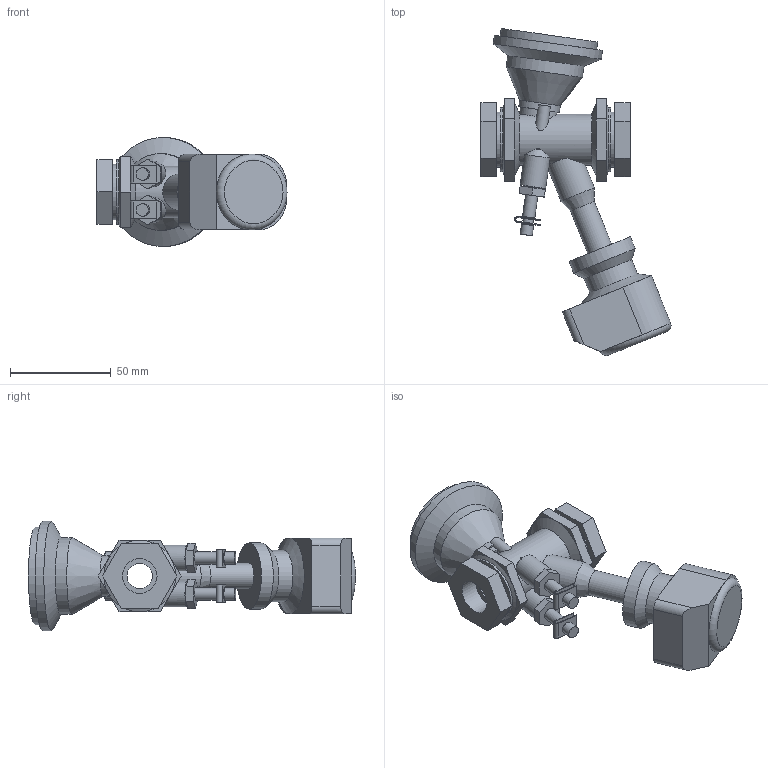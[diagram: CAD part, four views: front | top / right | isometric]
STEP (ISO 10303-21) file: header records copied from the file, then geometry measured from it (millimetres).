
FILE_DESCRIPTION(/* description */ ('VIC BALANCING AND CONTROL VALVE SERIES 7CP (FPT)-EMO 3','CAx-IF Rec.Pracs.---Representation and Presentation of Product Manufacturing Information (PMI)---4.0---2014-10-13'),/* implementation_level */ '2;1');
FILE_NAME(/* name */ 'C:\Users\Vjadhav\AppData\Roaming\Autodesk\ApplicationPlugins\Victaulic.Temp\A633\Victaulic_IPS_Valve Balancing Pressure Independent_TA Series 7CP (FPT)_EMO 3_0.375 (10).stp',/* time_stamp */ '2021-09-14T20:02:04+06:00',/* author */ ('Vjadhav'),/* organization */ ('Victaulic'),/* preprocessor_version */ 'ST-DEVELOPER v17.2',/* originating_system */ 'Autodesk Inventor 2019',/* authorisation */ '');
FILE_SCHEMA (('AP242_MANAGED_MODEL_BASED_3D_ENGINEERING_MIM_LF { 1 0 10303 442 1 1 4 }'));
Length unit declared in the file: inch
Products named in the file (2): 7CP_EMO 3-0.375; 7CP-0.375
Assembly tree (1 placements, depth 2):
  7CP_EMO 3-0.375
    7CP-0.375
Bounding box: 94.19 x 162.05 x 54.1 mm (x, y, z)
Volume: 151963.7 mm3; surface area: 37415.7 mm2
Topology: 1 solids, 1 shells, 179 faces, 447 edges, 296 vertices
Faces by surface type: plane 120, cylinder 47, cone 11, torus 1
Full cylindrical faces by diameter (mm): 5.08 x6, 6.096 x6, 12.522 x2, 12.649 x1, 12.7 x2, 17.145 x3, 17.78 x1, 20.32 x1, 25.4 x2, 27.432 x2, 31.75 x2, 32.766 x1, 37.631 x1, 38.1 x1, 48.26 x1, 54.102 x1
Entity records: 5897 total; most frequent: CARTESIAN_POINT 1148, DIRECTION 982, ORIENTED_EDGE 894, EDGE_CURVE 447, AXIS2_PLACEMENT_3D 368, VERTEX_POINT 296, LINE 246, VECTOR 246
